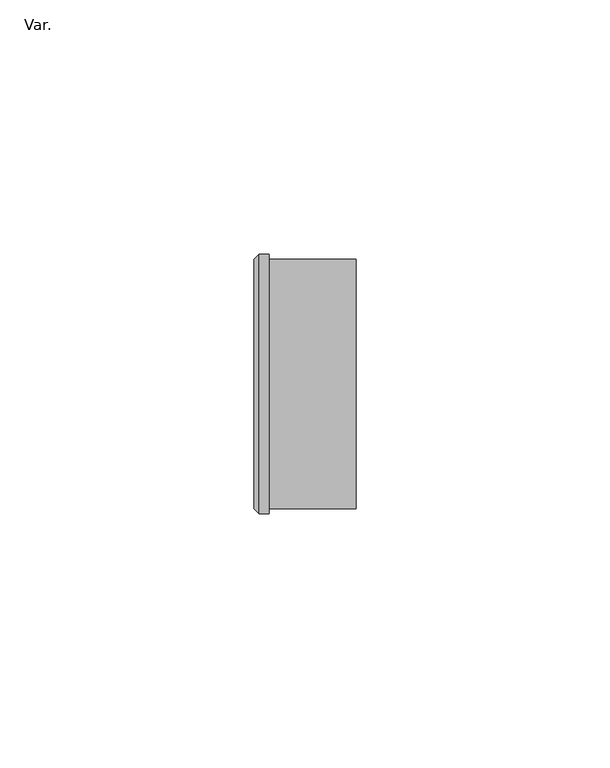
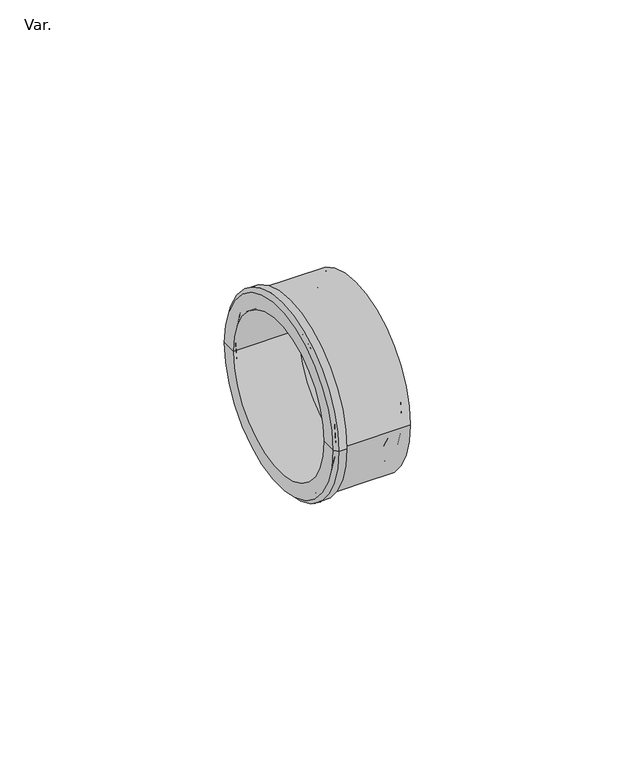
"""IFC4 building model written with IfcOpenShell, lengths in millimetres: pipe fitting geometry, Z_Amanco Esgoto Redução Para Caixa Sifonada DN50X40 (Nested) : Var.."""

from ifc_helpers import new_model, si_unit, point, frame, origin, place, context, project, spatial, polyline, circle_curve, ellipse_curve, trimmed, source, transform, mapped, element, save
from ifc_brep_helpers import plane_surface, cylinder_surface, revolved_surface, advanced_brep


def var_cd76d954(model_context):
    return source(origin(), model_context, "Body", "AdvancedBrep", [
        advanced_brep(
        [(7.9899495, -19.5, 0.0), (7.9899495, 19.5, 0.0), (6.9899495, 20.5, 0.0), (6.9899495, -20.5, 0.0), (9.0, -18.5100505, 0.0), (9.0, 18.5100505, 0.0), (10.0100505, -19.5, 0.0), (10.0100505, 19.5, 0.0), (10.0100505, -20.5, 0.0), (10.0100505, 20.5, 0.0), (9.0, -21.4899495, 0.0), (9.0, 21.4899495, 0.0), (-7.0100505, -21.4899495, 0.0), (-7.0100505, 21.4899495, 0.0), (-8.0100505, -22.4899495, 0.0), (-8.0100505, 22.4899495, 0.0), (-7.0100505, -23.4899495, 0.0), (-7.0100505, 23.4899495, 0.0), (10.0, -23.4899495, 0.0), (10.0, 23.4899495, 0.0), (10.0, -24.5, 0.0), (10.0, 24.5, 0.0), (-7.0100505, -24.5, 0.0), (-7.0100505, 24.5, 0.0), (-7.0100505, -25.5, 0.0), (-7.0100505, 25.5, 0.0), (-9.0100505, -25.5, 0.0), (-9.0100505, 25.5, 0.0), (-10.0, -24.5100505, 0.0), (-10.0, 24.5100505, 0.0), (-10.0, -20.5, 0.0), (-10.0, 20.5, 0.0)],
        [
            (0, 1, circle_curve(frame((7.9899495, 0.0, 0.0), z_axis=(1.0, 0.0, 0.0), x_axis=(0.0, 1.0, 0.0)), 19.5)),
            (1, 2, circle_curve(frame((6.9899495, 19.5, 0.0), z_axis=(0.0, 0.0, 1.0), x_axis=(1.0, 0.0, 0.0)), 1.0)),
            (2, 3, circle_curve(frame((6.9899495, 0.0, 0.0), z_axis=(-1.0, 0.0, 0.0), x_axis=(0.0, 1.0, 0.0)), 20.5)),
            (3, 0, circle_curve(frame((6.9899495, -19.5, 0.0), z_axis=(0.0, 0.0, 1.0), x_axis=(1.0, 0.0, 0.0)), 1.0)),
            (1, 0, circle_curve(frame((7.9899495, 0.0, 0.0), z_axis=(1.0, 0.0, 0.0), x_axis=(0.0, 1.0, 0.0)), 19.5)),
            (3, 2, circle_curve(frame((6.9899495, 0.0, 0.0), z_axis=(-1.0, 0.0, 0.0), x_axis=(0.0, 1.0, 0.0)), 20.5)),
            (4, 5, circle_curve(frame((9.0, 0.0, 0.0), z_axis=(1.0, 0.0, 0.0), x_axis=(0.0, 1.0, 0.0)), 18.5100505)),
            (5, 1, circle_curve(frame((9.0, 19.5203051, 0.0), z_axis=(0.0, 0.0, -1.0), x_axis=(1.0, 0.0, 0.0)), 1.0102546)),
            (0, 4, circle_curve(frame((9.0, -19.5203051, 0.0), z_axis=(0.0, 0.0, -1.0), x_axis=(1.0, 0.0, 0.0)), 1.0102546)),
            (5, 4, circle_curve(frame((9.0, 0.0, 0.0), z_axis=(1.0, 0.0, 0.0), x_axis=(0.0, 1.0, 0.0)), 18.5100505)),
            (6, 7, circle_curve(frame((10.0100505, 0.0, 0.0), z_axis=(1.0, 0.0, 0.0), x_axis=(0.0, 1.0, 0.0)), 19.5)),
            (7, 5, circle_curve(frame((9.0, 19.5203051, 0.0), z_axis=(0.0, 0.0, -1.0), x_axis=(1.0, 0.0, 0.0)), 1.0102546)),
            (4, 6, circle_curve(frame((9.0, -19.5203051, 0.0), z_axis=(0.0, 0.0, -1.0), x_axis=(1.0, 0.0, 0.0)), 1.0102546)),
            (7, 6, circle_curve(frame((10.0100505, 0.0, 0.0), z_axis=(1.0, 0.0, 0.0), x_axis=(0.0, 1.0, 0.0)), 19.5)),
            (8, 9, circle_curve(frame((10.0100505, 0.0, 0.0), z_axis=(1.0, 0.0, 0.0), x_axis=(0.0, 1.0, 0.0)), 20.5)),
            (9, 7),
            (6, 8),
            (9, 8, circle_curve(frame((10.0100505, 0.0, 0.0), z_axis=(1.0, 0.0, 0.0), x_axis=(0.0, 1.0, 0.0)), 20.5)),
            (10, 11, circle_curve(frame((9.0, 0.0, 0.0), z_axis=(1.0, 0.0, 0.0), x_axis=(0.0, 1.0, 0.0)), 21.4899495)),
            (11, 9, circle_curve(frame((9.0, 20.4796949, 0.0), z_axis=(0.0, 0.0, -1.0), x_axis=(1.0, 0.0, 0.0)), 1.0102546)),
            (8, 10, circle_curve(frame((9.0, -20.4796949, 0.0), z_axis=(0.0, 0.0, -1.0), x_axis=(1.0, 0.0, 0.0)), 1.0102546)),
            (11, 10, circle_curve(frame((9.0, 0.0, 0.0), z_axis=(1.0, 0.0, 0.0), x_axis=(0.0, 1.0, 0.0)), 21.4899495)),
            (12, 13, circle_curve(frame((-7.0100505, 0.0, 0.0), z_axis=(1.0, 0.0, 0.0), x_axis=(0.0, 1.0, 0.0)), 21.4899495)),
            (13, 11),
            (10, 12),
            (13, 12, circle_curve(frame((-7.0100505, 0.0, 0.0), z_axis=(1.0, 0.0, 0.0), x_axis=(0.0, 1.0, 0.0)), 21.4899495)),
            (14, 15, circle_curve(frame((-8.0100505, 0.0, 0.0), z_axis=(1.0, 0.0, 0.0), x_axis=(0.0, 1.0, 0.0)), 22.4899495)),
            (15, 13, circle_curve(frame((-7.0100505, 22.4899495, 0.0), z_axis=(0.0, 0.0, 1.0), x_axis=(1.0, 0.0, 0.0)), 1.0)),
            (12, 14, circle_curve(frame((-7.0100505, -22.4899495, 0.0), z_axis=(0.0, 0.0, 1.0), x_axis=(1.0, 0.0, 0.0)), 1.0)),
            (15, 14, circle_curve(frame((-8.0100505, 0.0, 0.0), z_axis=(1.0, 0.0, 0.0), x_axis=(0.0, 1.0, 0.0)), 22.4899495)),
            (16, 17, circle_curve(frame((-7.0100505, 0.0, 0.0), z_axis=(1.0, 0.0, 0.0), x_axis=(0.0, 1.0, 0.0)), 23.4899495)),
            (17, 15, circle_curve(frame((-7.0100505, 22.4899495, 0.0), z_axis=(0.0, 0.0, 1.0), x_axis=(1.0, 0.0, 0.0)), 1.0)),
            (14, 16, circle_curve(frame((-7.0100505, -22.4899495, 0.0), z_axis=(0.0, 0.0, 1.0), x_axis=(1.0, 0.0, 0.0)), 1.0)),
            (17, 16, circle_curve(frame((-7.0100505, 0.0, 0.0), z_axis=(1.0, 0.0, 0.0), x_axis=(0.0, 1.0, 0.0)), 23.4899495)),
            (18, 19, circle_curve(frame((10.0, 0.0, 0.0), z_axis=(1.0, 0.0, 0.0), x_axis=(0.0, 1.0, 0.0)), 23.4899495)),
            (19, 17),
            (16, 18),
            (19, 18, circle_curve(frame((10.0, 0.0, 0.0), z_axis=(1.0, 0.0, 0.0), x_axis=(0.0, 1.0, 0.0)), 23.4899495)),
            (20, 21, circle_curve(frame((10.0, 0.0, 0.0), z_axis=(1.0, 0.0, 0.0), x_axis=(0.0, 1.0, 0.0)), 24.5)),
            (21, 19),
            (18, 20),
            (21, 20, circle_curve(frame((10.0, 0.0, 0.0), z_axis=(1.0, 0.0, 0.0), x_axis=(0.0, 1.0, 0.0)), 24.5)),
            (22, 23, circle_curve(frame((-7.0100505, 0.0, 0.0), z_axis=(1.0, 0.0, 0.0), x_axis=(0.0, 1.0, 0.0)), 24.5)),
            (23, 21),
            (20, 22),
            (23, 22, circle_curve(frame((-7.0100505, 0.0, 0.0), z_axis=(1.0, 0.0, 0.0), x_axis=(0.0, 1.0, 0.0)), 24.5)),
            (24, 25, circle_curve(frame((-7.0100505, 0.0, 0.0), z_axis=(1.0, 0.0, 0.0), x_axis=(0.0, 1.0, 0.0)), 25.5)),
            (25, 23),
            (22, 24),
            (25, 24, circle_curve(frame((-7.0100505, 0.0, 0.0), z_axis=(1.0, 0.0, 0.0), x_axis=(0.0, 1.0, 0.0)), 25.5)),
            (26, 27, circle_curve(frame((-9.0100505, 0.0, 0.0), z_axis=(1.0, 0.0, 0.0), x_axis=(0.0, 1.0, 0.0)), 25.5)),
            (27, 25),
            (24, 26),
            (27, 26, circle_curve(frame((-9.0100505, 0.0, 0.0), z_axis=(1.0, 0.0, 0.0), x_axis=(0.0, 1.0, 0.0)), 25.5)),
            (28, 29, circle_curve(frame((-10.0, 0.0, 0.0), z_axis=(1.0, 0.0, 0.0), x_axis=(0.0, 1.0, 0.0)), 24.5100505)),
            (29, 27),
            (26, 28),
            (29, 28, circle_curve(frame((-10.0, 0.0, 0.0), z_axis=(1.0, 0.0, 0.0), x_axis=(0.0, 1.0, 0.0)), 24.5100505)),
            (30, 31, circle_curve(frame((-10.0, 0.0, 0.0), z_axis=(1.0, 0.0, 0.0), x_axis=(0.0, 1.0, 0.0)), 20.5)),
            (31, 29),
            (28, 30),
            (31, 30, circle_curve(frame((-10.0, 0.0, 0.0), z_axis=(1.0, 0.0, 0.0), x_axis=(0.0, 1.0, 0.0)), 20.5)),
            (2, 31),
            (30, 3),
        ],
        [
            revolved_surface(trimmed(ellipse_curve(frame((6.9899495, 19.5, 0.0), z_axis=(0.0, 0.0, -1.0), x_axis=(1.0, 0.0, 0.0)), 1.0, 1.0), [point((6.9899495, 20.5, 0.0))], [point((7.9899495, 19.5, 0.0))], True, "CARTESIAN"), (2000.0100505, 0.0, 0.0), (-1.0, 0.0, 0.0)),
            revolved_surface(trimmed(ellipse_curve(frame((9.0, 19.5203051, 0.0), z_axis=(0.0, 0.0, 1.0), x_axis=(1.0, 0.0, 0.0)), 1.0102546, 1.0102546), [point((7.9899495, 19.5, 0.0))], [point((9.0, 18.5100505, 0.0))], True, "CARTESIAN"), (2000.0100505, 0.0, 0.0), (-1.0, 0.0, 0.0)),
            revolved_surface(trimmed(ellipse_curve(frame((9.0, 19.5203051, 0.0), z_axis=(0.0, 0.0, 1.0), x_axis=(1.0, 0.0, 0.0)), 1.0102546, 1.0102546), [point((9.0, 18.5100505, 0.0))], [point((10.0100505, 19.5, 0.0))], True, "CARTESIAN"), (2000.0100505, 0.0, 0.0), (-1.0, 0.0, 0.0)),
            plane_surface(frame((10.0100505, 0.0, 0.0), z_axis=(1.0, 0.0, 0.0), x_axis=(0.0, 1.0, 0.0))),
            revolved_surface(trimmed(ellipse_curve(frame((9.0, 20.4796949, 0.0), z_axis=(0.0, 0.0, 1.0), x_axis=(1.0, 0.0, 0.0)), 1.0102546, 1.0102546), [point((10.0100505, 20.5, 0.0))], [point((9.0, 21.4899495, 0.0))], True, "CARTESIAN"), (2000.0100505, 0.0, 0.0), (-1.0, 0.0, 0.0)),
            cylinder_surface(frame((2000.0100505, 0.0, 0.0), z_axis=(-1.0, 0.0, 0.0), x_axis=(0.0, 1.0, 0.0)), 21.4899495),
            revolved_surface(trimmed(ellipse_curve(frame((-7.0100505, 22.4899495, 0.0), z_axis=(0.0, 0.0, -1.0), x_axis=(1.0, 0.0, 0.0)), 1.0, 1.0), [point((-7.0100505, 21.4899495, 0.0))], [point((-8.0100505, 22.4899495, 0.0))], True, "CARTESIAN"), (2000.0100505, 0.0, 0.0), (-1.0, 0.0, 0.0)),
            revolved_surface(trimmed(ellipse_curve(frame((-7.0100505, 22.4899495, 0.0), z_axis=(0.0, 0.0, -1.0), x_axis=(1.0, 0.0, 0.0)), 1.0, 1.0), [point((-8.0100505, 22.4899495, 0.0))], [point((-7.0100505, 23.4899495, 0.0))], True, "CARTESIAN"), (2000.0100505, 0.0, 0.0), (-1.0, 0.0, 0.0)),
            revolved_surface(polyline([(-7.010050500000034, 23.4899495, 0.0), (10.0, 23.4899495, 0.0)]), (2000.0100505, 0.0, 0.0), (-1.0, 0.0, 0.0)),
            plane_surface(frame((10.0, 0.0, 0.0), z_axis=(1.0, 0.0, 0.0), x_axis=(0.0, 1.0, 0.0))),
            cylinder_surface(frame((2000.0100505, 0.0, 0.0), z_axis=(-1.0, 0.0, 0.0), x_axis=(0.0, 1.0, 0.0)), 24.5),
            plane_surface(frame((-7.0100505, 0.0, 0.0), z_axis=(1.0, 0.0, 0.0), x_axis=(0.0, 1.0, 0.0))),
            cylinder_surface(frame((2000.0100505, 0.0, 0.0), z_axis=(-1.0, 0.0, 0.0), x_axis=(0.0, 1.0, 0.0)), 25.5),
            revolved_surface(polyline([(-9.0100505, 25.5, 0.0), (-10.0, 24.5100505, 0.0)]), (2000.0100505, 0.0, 0.0), (-1.0, 0.0, 0.0)),
            plane_surface(frame((-10.0, 0.0, 0.0), z_axis=(-1.0, 0.0, 0.0), x_axis=(0.0, 1.0, 0.0))),
            revolved_surface(polyline([(-10.0, 20.5, 0.0), (6.989949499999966, 20.5, 0.0)]), (2000.0100505, 0.0, 0.0), (-1.0, 0.0, 0.0)),
        ],
        [
            (0, [[1, 2, 3, 4]]),
            (0, [[5, -4, 6, -2]]),
            (1, [[7, 8, -1, 9]]),
            (1, [[10, -9, -5, -8]]),
            (2, [[11, 12, -7, 13]]),
            (2, [[14, -13, -10, -12]]),
            (3, [[15, 16, -11, 17]]),
            (3, [[18, -17, -14, -16]]),
            (4, [[19, 20, -15, 21]]),
            (4, [[22, -21, -18, -20]]),
            (5, [[23, 24, -19, 25]]),
            (5, [[26, -25, -22, -24]]),
            (6, [[27, 28, -23, 29]]),
            (6, [[30, -29, -26, -28]]),
            (7, [[31, 32, -27, 33]]),
            (7, [[34, -33, -30, -32]]),
            (8, [[35, 36, -31, 37]]),
            (8, [[38, -37, -34, -36]]),
            (9, [[39, 40, -35, 41]]),
            (9, [[42, -41, -38, -40]]),
            (10, [[43, 44, -39, 45]]),
            (10, [[46, -45, -42, -44]]),
            (11, [[47, 48, -43, 49]]),
            (11, [[50, -49, -46, -48]]),
            (12, [[51, 52, -47, 53]]),
            (12, [[54, -53, -50, -52]]),
            (13, [[55, 56, -51, 57]]),
            (13, [[58, -57, -54, -56]]),
            (14, [[59, 60, -55, 61]]),
            (14, [[62, -61, -58, -60]]),
            (15, [[-3, 63, -59, 64]]),
            (15, [[-6, -64, -62, -63]]),
        ],
    ),
    ])


if __name__ == "__main__":
    model = new_model("IFC4")
    model_context = context("Model", 3, world=origin())
    ifc_project = project(units=[si_unit("LENGTHUNIT", "METRE", prefix="MILLI")], contexts=[model_context])
    site = spatial("IfcSite", under=ifc_project)
    building = spatial("IfcBuilding", under=site)
    placement = place(None, origin())
    var_shape = var_cd76d954(model_context)
    element("IfcPipeFitting", 1, ObjectType="Z_Amanco Esgoto Redução Para Caixa Sifonada DN50X40 (Nested) : Var.", at=placement, inside=building, context=model_context, shape_type="MappedRepresentation", body=[
        mapped(var_shape, transform((0.0, 0.0, 0.0), x_axis=(1.0, 0.0, 0.0), y_axis=(0.0, 1.0, 0.0), z_axis=(0.0, 0.0, 1.0))),
    ])
    save(model, "model.ifc")
